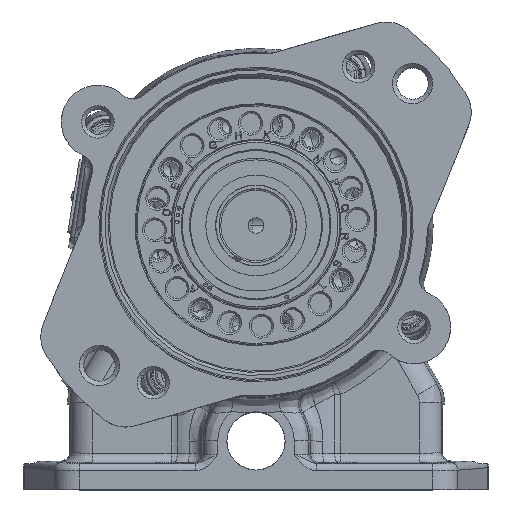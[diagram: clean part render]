
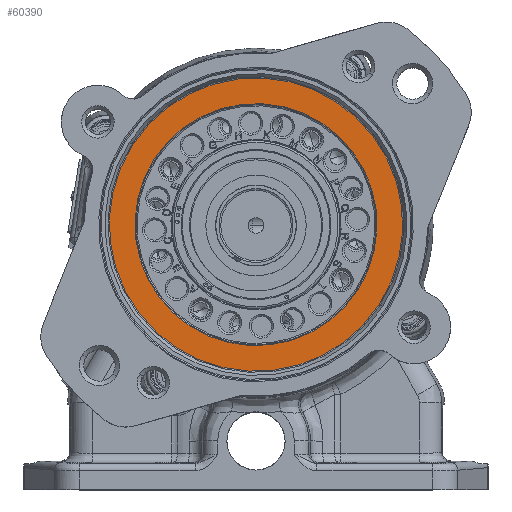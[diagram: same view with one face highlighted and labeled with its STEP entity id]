
A CAD part, top view. The second image highlights one B-rep face of the part: STEP entity #60390.
In plain terms, the highlighted planar face has unit normal (0, 0, 1).
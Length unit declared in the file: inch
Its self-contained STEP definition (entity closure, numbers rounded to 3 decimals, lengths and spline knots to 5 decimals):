
#18 = ORIENTED_EDGE ( 'NONE', *, *, #93329, .T. ) ;
#2818 = CARTESIAN_POINT ( 'NONE',  ( -2.481, 0., -1.039 ) ) ;
#3395 = ORIENTED_EDGE ( 'NONE', *, *, #84900, .T. ) ;
#8219 = CARTESIAN_POINT ( 'NONE',  ( 0., 0., -1.039 ) ) ;
#8972 = DIRECTION ( 'NONE',  ( 1., 0., 0. ) ) ;
#10013 = VERTEX_POINT ( 'NONE', #28344 ) ;
#13807 = AXIS2_PLACEMENT_3D ( 'NONE', #83281, #122233, #8972 ) ;
#16878 = CIRCLE ( 'NONE', #105817, 2.481 ) ;
#18801 = DIRECTION ( 'NONE',  ( 0., 0., 1. ) ) ;
#21572 = AXIS2_PLACEMENT_3D ( 'NONE', #36120, #54098, #81342 ) ;
#27412 = DIRECTION ( 'NONE',  ( 1., 0., 0. ) ) ;
#28098 = AXIS2_PLACEMENT_3D ( 'NONE', #62722, #82538, #80109 ) ;
#28344 = CARTESIAN_POINT ( 'NONE',  ( 2.04688, 0., -1.039 ) ) ;
#29234 = DIRECTION ( 'NONE',  ( 0., 0., 1. ) ) ;
#34610 = VERTEX_POINT ( 'NONE', #83931 ) ;
#36120 = CARTESIAN_POINT ( 'NONE',  ( 0., 0., -1.039 ) ) ;
#41070 = EDGE_CURVE ( 'NONE', #115938, #73663, #16878, .T. ) ;
#43533 = FACE_OUTER_BOUND ( 'NONE', #72414, .T. ) ;
#44759 = PLANE ( 'NONE',  #28098 ) ;
#54098 = DIRECTION ( 'NONE',  ( 0., 0., -1. ) ) ;
#55137 = CIRCLE ( 'NONE', #21572, 2.04688 ) ;
#60390 = ADVANCED_FACE ( 'NONE', ( #43533, #109770 ), #44759, .T. ) ;
#62722 = CARTESIAN_POINT ( 'NONE',  ( 0., 2.501, -1.039 ) ) ;
#71867 = AXIS2_PLACEMENT_3D ( 'NONE', #8219, #29234, #27412 ) ;
#72414 = EDGE_LOOP ( 'NONE', ( #81219, #3395 ) ) ;
#73663 = VERTEX_POINT ( 'NONE', #2818 ) ;
#80109 = DIRECTION ( 'NONE',  ( 1., 0., 0. ) ) ;
#81219 = ORIENTED_EDGE ( 'NONE', *, *, #41070, .T. ) ;
#81342 = DIRECTION ( 'NONE',  ( 1., 0., 0. ) ) ;
#82538 = DIRECTION ( 'NONE',  ( 0., 0., 1. ) ) ;
#83281 = CARTESIAN_POINT ( 'NONE',  ( 0., 0., -1.039 ) ) ;
#83931 = CARTESIAN_POINT ( 'NONE',  ( -2.04688, 0., -1.039 ) ) ;
#84405 = DIRECTION ( 'NONE',  ( 1., 0., 0. ) ) ;
#84900 = EDGE_CURVE ( 'NONE', #73663, #115938, #93627, .T. ) ;
#88921 = CIRCLE ( 'NONE', #13807, 2.04688 ) ;
#93329 = EDGE_CURVE ( 'NONE', #34610, #10013, #55137, .T. ) ;
#93627 = CIRCLE ( 'NONE', #71867, 2.481 ) ;
#94557 = EDGE_CURVE ( 'NONE', #10013, #34610, #88921, .T. ) ;
#96127 = CARTESIAN_POINT ( 'NONE',  ( 0., 0., -1.039 ) ) ;
#105817 = AXIS2_PLACEMENT_3D ( 'NONE', #96127, #18801, #84405 ) ;
#107227 = ORIENTED_EDGE ( 'NONE', *, *, #94557, .T. ) ;
#109770 = FACE_BOUND ( 'NONE', #111556, .T. ) ;
#111123 = CARTESIAN_POINT ( 'NONE',  ( 2.481, 0., -1.039 ) ) ;
#111556 = EDGE_LOOP ( 'NONE', ( #107227, #18 ) ) ;
#115938 = VERTEX_POINT ( 'NONE', #111123 ) ;
#122233 = DIRECTION ( 'NONE',  ( 0., 0., -1. ) ) ;
